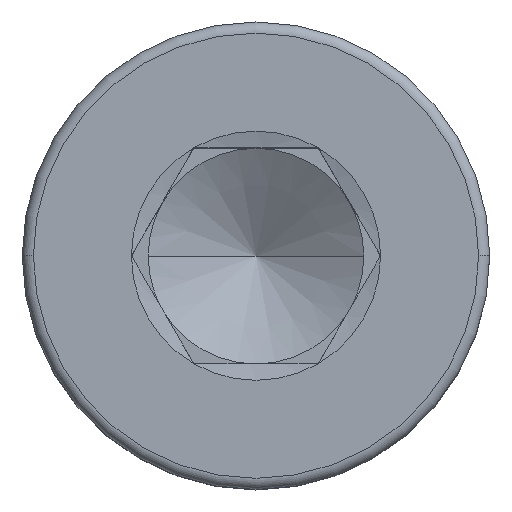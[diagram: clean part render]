
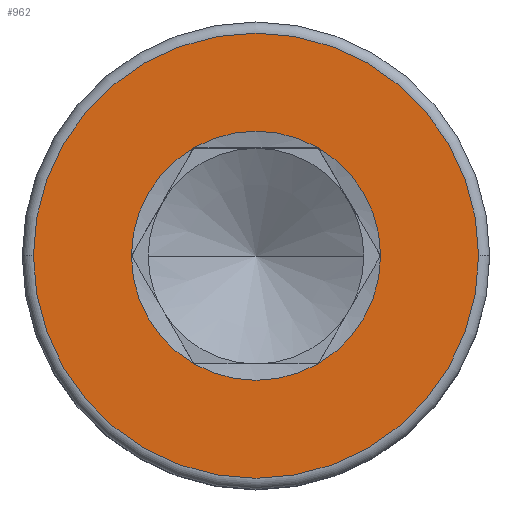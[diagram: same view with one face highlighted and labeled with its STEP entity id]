
A CAD part, top view. The second image highlights one B-rep face of the part: STEP entity #962.
In plain terms, the highlighted planar face has unit normal (0, 0, 1).
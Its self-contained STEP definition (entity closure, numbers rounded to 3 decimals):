
#8 = VERTEX_POINT ( 'NONE', #178 ) ;
#24 = EDGE_CURVE ( 'NONE', #253, #1686, #671, .T. ) ;
#46 = AXIS2_PLACEMENT_3D ( 'NONE', #1340, #1301, #217 ) ;
#99 = DIRECTION ( 'NONE',  ( 0., 0., 1. ) ) ;
#102 = CARTESIAN_POINT ( 'NONE',  ( 0., 0., 8. ) ) ;
#178 = CARTESIAN_POINT ( 'NONE',  ( -1.732, 3., 8. ) ) ;
#184 = CARTESIAN_POINT ( 'NONE',  ( 0., 0., 8. ) ) ;
#190 = EDGE_CURVE ( 'NONE', #8, #1253, #1139, .T. ) ;
#211 = ORIENTED_EDGE ( 'NONE', *, *, #24, .F. ) ;
#217 = DIRECTION ( 'NONE',  ( 1., 0., 0. ) ) ;
#218 = EDGE_CURVE ( 'NONE', #1253, #247, #597, .T. ) ;
#222 = CIRCLE ( 'NONE', #1566, 3.464 ) ;
#224 = DIRECTION ( 'NONE',  ( 0., 0., 1. ) ) ;
#229 = CARTESIAN_POINT ( 'NONE',  ( 0., 0., 8. ) ) ;
#247 = VERTEX_POINT ( 'NONE', #964 ) ;
#253 = VERTEX_POINT ( 'NONE', #1207 ) ;
#290 = VERTEX_POINT ( 'NONE', #1356 ) ;
#347 = VERTEX_POINT ( 'NONE', #703 ) ;
#351 = DIRECTION ( 'NONE',  ( 1., 0., 0. ) ) ;
#374 = ORIENTED_EDGE ( 'NONE', *, *, #913, .F. ) ;
#407 = EDGE_LOOP ( 'NONE', ( #1759, #1159 ) ) ;
#413 = AXIS2_PLACEMENT_3D ( 'NONE', #184, #870, #1282 ) ;
#440 = EDGE_LOOP ( 'NONE', ( #1101, #211, #374, #1040, #966, #820 ) ) ;
#455 = EDGE_CURVE ( 'NONE', #1686, #758, #222, .T. ) ;
#509 = FACE_BOUND ( 'NONE', #440, .T. ) ;
#597 = CIRCLE ( 'NONE', #1565, 3.464 ) ;
#602 = CIRCLE ( 'NONE', #1232, 6.19 ) ;
#618 = DIRECTION ( 'NONE',  ( 0., 0., 1. ) ) ;
#628 = DIRECTION ( 'NONE',  ( 1., 0., 0. ) ) ;
#635 = DIRECTION ( 'NONE',  ( 1., 0., 0. ) ) ;
#657 = AXIS2_PLACEMENT_3D ( 'NONE', #789, #224, #628 ) ;
#671 = CIRCLE ( 'NONE', #413, 3.464 ) ;
#703 = CARTESIAN_POINT ( 'NONE',  ( -6.19, 0., 8. ) ) ;
#758 = VERTEX_POINT ( 'NONE', #1747 ) ;
#777 = DIRECTION ( 'NONE',  ( 1., 0., 0. ) ) ;
#787 = FACE_OUTER_BOUND ( 'NONE', #407, .T. ) ;
#789 = CARTESIAN_POINT ( 'NONE',  ( 0., 0., 8. ) ) ;
#820 = ORIENTED_EDGE ( 'NONE', *, *, #1096, .F. ) ;
#860 = CIRCLE ( 'NONE', #657, 3.464 ) ;
#863 = CIRCLE ( 'NONE', #1753, 6.19 ) ;
#870 = DIRECTION ( 'NONE',  ( 0., 0., 1. ) ) ;
#913 = EDGE_CURVE ( 'NONE', #247, #253, #1085, .T. ) ;
#931 = PLANE ( 'NONE',  #1691 ) ;
#948 = CARTESIAN_POINT ( 'NONE',  ( 3.464, 0., 8. ) ) ;
#962 = ADVANCED_FACE ( 'NONE', ( #787, #509 ), #931, .T. ) ;
#964 = CARTESIAN_POINT ( 'NONE',  ( -1.732, -3., 8. ) ) ;
#966 = ORIENTED_EDGE ( 'NONE', *, *, #190, .F. ) ;
#1040 = ORIENTED_EDGE ( 'NONE', *, *, #218, .F. ) ;
#1047 = EDGE_CURVE ( 'NONE', #347, #290, #602, .T. ) ;
#1085 = CIRCLE ( 'NONE', #1320, 3.464 ) ;
#1096 = EDGE_CURVE ( 'NONE', #758, #8, #860, .T. ) ;
#1101 = ORIENTED_EDGE ( 'NONE', *, *, #455, .F. ) ;
#1105 = DIRECTION ( 'NONE',  ( 1., 0., 0. ) ) ;
#1133 = CARTESIAN_POINT ( 'NONE',  ( 0., 0., 8. ) ) ;
#1139 = CIRCLE ( 'NONE', #46, 3.464 ) ;
#1159 = ORIENTED_EDGE ( 'NONE', *, *, #1047, .T. ) ;
#1190 = DIRECTION ( 'NONE',  ( 1., 0., 0. ) ) ;
#1207 = CARTESIAN_POINT ( 'NONE',  ( 1.732, -3., 8. ) ) ;
#1232 = AXIS2_PLACEMENT_3D ( 'NONE', #102, #618, #1190 ) ;
#1253 = VERTEX_POINT ( 'NONE', #1523 ) ;
#1261 = CARTESIAN_POINT ( 'NONE',  ( 0., 0., 8. ) ) ;
#1282 = DIRECTION ( 'NONE',  ( 1., 0., 0. ) ) ;
#1301 = DIRECTION ( 'NONE',  ( 0., 0., 1. ) ) ;
#1320 = AXIS2_PLACEMENT_3D ( 'NONE', #1438, #1708, #351 ) ;
#1330 = DIRECTION ( 'NONE',  ( 0., 0., 1. ) ) ;
#1340 = CARTESIAN_POINT ( 'NONE',  ( 0., 0., 8. ) ) ;
#1344 = EDGE_CURVE ( 'NONE', #290, #347, #863, .T. ) ;
#1356 = CARTESIAN_POINT ( 'NONE',  ( 6.19, 0., 8. ) ) ;
#1396 = DIRECTION ( 'NONE',  ( 0., 0., 1. ) ) ;
#1438 = CARTESIAN_POINT ( 'NONE',  ( 0., 0., 8. ) ) ;
#1460 = CARTESIAN_POINT ( 'NONE',  ( 0., 0., 8. ) ) ;
#1523 = CARTESIAN_POINT ( 'NONE',  ( -3.464, 0., 8. ) ) ;
#1565 = AXIS2_PLACEMENT_3D ( 'NONE', #229, #1330, #777 ) ;
#1566 = AXIS2_PLACEMENT_3D ( 'NONE', #1133, #1396, #1105 ) ;
#1666 = DIRECTION ( 'NONE',  ( 0., 0., 1. ) ) ;
#1686 = VERTEX_POINT ( 'NONE', #948 ) ;
#1691 = AXIS2_PLACEMENT_3D ( 'NONE', #1460, #99, #635 ) ;
#1708 = DIRECTION ( 'NONE',  ( 0., 0., 1. ) ) ;
#1747 = CARTESIAN_POINT ( 'NONE',  ( 1.732, 3., 8. ) ) ;
#1753 = AXIS2_PLACEMENT_3D ( 'NONE', #1261, #1666, #1789 ) ;
#1759 = ORIENTED_EDGE ( 'NONE', *, *, #1344, .T. ) ;
#1789 = DIRECTION ( 'NONE',  ( 1., 0., 0. ) ) ;
